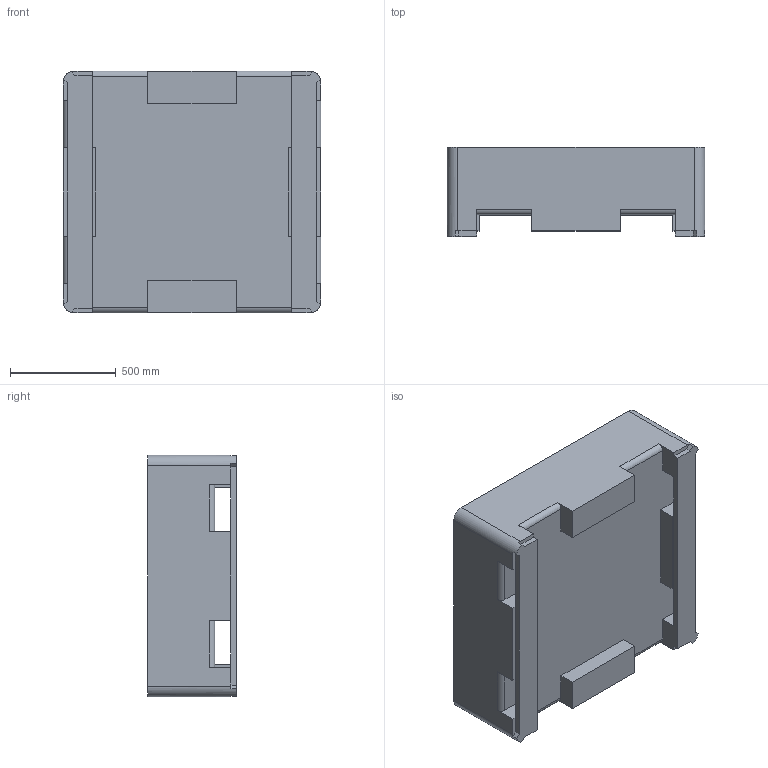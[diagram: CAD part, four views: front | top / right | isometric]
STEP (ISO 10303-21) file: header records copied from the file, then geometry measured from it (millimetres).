
FILE_DESCRIPTION (( 'STEP AP214' ), '1' );
FILE_NAME ('12FV Block Model.STEP', '2013-06-03T14:38:34', ( 'Bryant Conder' ), ( '' ), 'SwSTEP 2.0', 'SolidWorks 2013', '' );
FILE_SCHEMA (( 'AUTOMOTIVE_DESIGN' ));
Length unit declared in the file: inch
Products named in the file (1): 12FV Block Model
Bounding box: 1219.2 x 419.1 x 1143 mm (x, y, z)
Volume: 138264805 mm3; surface area: 6149675.4 mm2
Topology: 1 solids, 1 shells, 112 faces, 320 edges, 196 vertices
Faces by surface type: plane 72, cylinder 32, sphere 8
Entity records: 3596 total; most frequent: ORIENTED_EDGE 624, CARTESIAN_POINT 621, DIRECTION 610, EDGE_CURVE 312, LINE 240, VECTOR 240, VERTEX_POINT 196, AXIS2_PLACEMENT_3D 185
